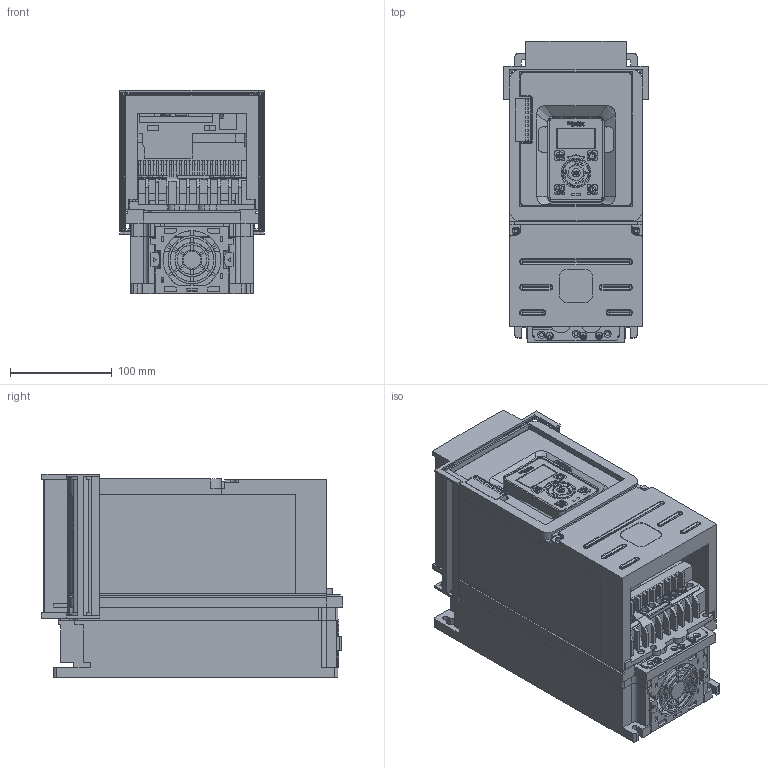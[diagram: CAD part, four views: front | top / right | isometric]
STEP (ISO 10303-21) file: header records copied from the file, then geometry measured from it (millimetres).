
FILE_DESCRIPTION(('STEP AP242'),'1');
FILE_NAME('atv610u30n4.stp','2021-01-12T02:08:01',('TraceParts'),('TraceParts S.A.'),'Spatial InterOp 3D',' ',' ');
FILE_SCHEMA(('AP242_MANAGED_MODEL_BASED_3D_ENGINEERING_MIM_LF {1 0 10303 442 1 1 4}'));
Length unit declared in the file: millimetre
Products named in the file (1): atv610u30n4_1
Bounding box: 142 x 296.21 x 200 mm (x, y, z)
Volume: 1180897.4 mm3; surface area: 820731.4 mm2
Topology: 20 solids, 20 shells, 3144 faces, 8960 edges, 5874 vertices
Faces by surface type: plane 1983, cylinder 685, extrusion 281, torus 129, bspline 29, sphere 19, cone 18
Entity records: 108230 total; most frequent: CARTESIAN_POINT 25764, ORIENTED_EDGE 17884, DIRECTION 16048, EDGE_CURVE 8942, VECTOR 6572, LINE 6291, VERTEX_POINT 5874, AXIS2_PLACEMENT_3D 4738
